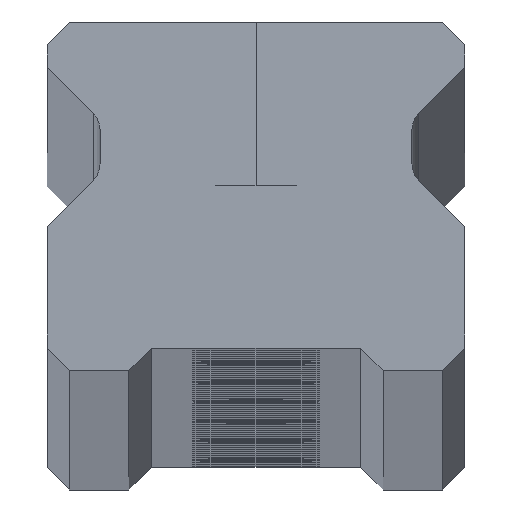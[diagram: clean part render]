
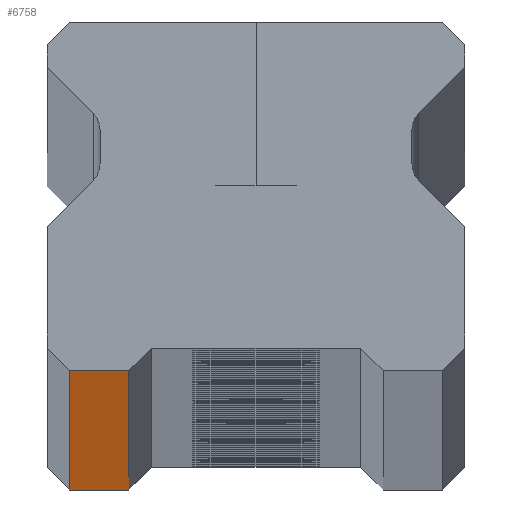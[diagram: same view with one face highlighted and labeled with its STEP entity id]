
A CAD part, top view. The second image highlights one B-rep face of the part: STEP entity #6758.
In plain terms, the highlighted planar face has unit normal (0, -1, 0).
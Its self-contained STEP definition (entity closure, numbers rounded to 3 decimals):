
#282 = DIRECTION ( 'NONE',  ( -1., 0., 0. ) ) ;
#342 = CARTESIAN_POINT ( 'NONE',  ( -7., 0., 1880. ) ) ;
#354 = EDGE_CURVE ( 'NONE', #10592, #2456, #1047, .T. ) ;
#533 = DIRECTION ( 'NONE',  ( 1., 0., 0. ) ) ;
#1047 = LINE ( 'NONE', #8810, #7837 ) ;
#1056 = CARTESIAN_POINT ( 'NONE',  ( 11.5, 0., 1880. ) ) ;
#1751 = ORIENTED_EDGE ( 'NONE', *, *, #7252, .T. ) ;
#2344 = VECTOR ( 'NONE', #6370, 1000. ) ;
#2456 = VERTEX_POINT ( 'NONE', #5858 ) ;
#2937 = AXIS2_PLACEMENT_3D ( 'NONE', #1056, #6059, #282 ) ;
#3318 = ORIENTED_EDGE ( 'NONE', *, *, #8586, .F. ) ;
#3472 = CARTESIAN_POINT ( 'NONE',  ( -10.25, 0., 1880. ) ) ;
#3736 = CARTESIAN_POINT ( 'NONE',  ( 11.5, 0., 1880. ) ) ;
#4286 = VECTOR ( 'NONE', #533, 1000. ) ;
#4388 = EDGE_CURVE ( 'NONE', #4671, #7389, #7678, .T. ) ;
#4671 = VERTEX_POINT ( 'NONE', #5639 ) ;
#5073 = CARTESIAN_POINT ( 'NONE',  ( 11.5, 0., -1880. ) ) ;
#5082 = VECTOR ( 'NONE', #9873, 1000. ) ;
#5509 = EDGE_LOOP ( 'NONE', ( #1751, #7047, #3318, #8929 ) ) ;
#5639 = CARTESIAN_POINT ( 'NONE',  ( -7., 0., -1880. ) ) ;
#5708 = LINE ( 'NONE', #3736, #4286 ) ;
#5858 = CARTESIAN_POINT ( 'NONE',  ( -10.25, 0., -1880. ) ) ;
#6059 = DIRECTION ( 'NONE',  ( 0., 1., 0. ) ) ;
#6370 = DIRECTION ( 'NONE',  ( 0., 0., 1. ) ) ;
#6758 = ADVANCED_FACE ( 'NONE', ( #7271 ), #9239, .F. ) ;
#7047 = ORIENTED_EDGE ( 'NONE', *, *, #4388, .T. ) ;
#7175 = CARTESIAN_POINT ( 'NONE',  ( -7., 0., -1880. ) ) ;
#7252 = EDGE_CURVE ( 'NONE', #2456, #4671, #8258, .T. ) ;
#7271 = FACE_OUTER_BOUND ( 'NONE', #5509, .T. ) ;
#7389 = VERTEX_POINT ( 'NONE', #342 ) ;
#7678 = LINE ( 'NONE', #7175, #2344 ) ;
#7837 = VECTOR ( 'NONE', #9628, 1000. ) ;
#8258 = LINE ( 'NONE', #5073, #5082 ) ;
#8586 = EDGE_CURVE ( 'NONE', #10592, #7389, #5708, .T. ) ;
#8810 = CARTESIAN_POINT ( 'NONE',  ( -10.25, 0., 1880. ) ) ;
#8929 = ORIENTED_EDGE ( 'NONE', *, *, #354, .T. ) ;
#9239 = PLANE ( 'NONE',  #2937 ) ;
#9628 = DIRECTION ( 'NONE',  ( 0., 0., -1. ) ) ;
#9873 = DIRECTION ( 'NONE',  ( 1., 0., 0. ) ) ;
#10592 = VERTEX_POINT ( 'NONE', #3472 ) ;
